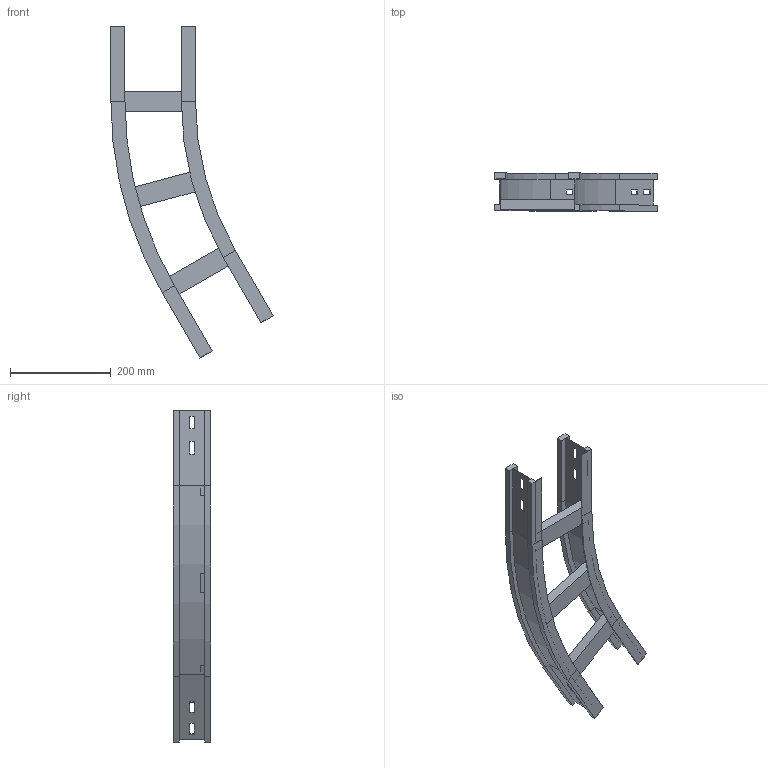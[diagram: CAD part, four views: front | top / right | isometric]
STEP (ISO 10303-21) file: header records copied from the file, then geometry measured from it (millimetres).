
FILE_DESCRIPTION (( 'STEP AP214' ), '1' );
FILE_NAME ('12S6C150.step', '2025-02-21T16:02:23', ( '' ), ( '' ), 'SwSTEP 2.0', 'SolidWorks 2023', '' );
FILE_SCHEMA (( 'AUTOMOTIVE_DESIGN' ));
Length unit declared in the file: millimetre
Products named in the file (4): TRAVERSINO_150; 12S6C150; LONGH.INTERNO 30°_H75_R600; LONGH.ESTERNO 30°_H75_R600+150
Assembly tree (5 placements, depth 2):
  12S6C150
    LONGH.INTERNO 30°_H75_R600
    LONGH.ESTERNO 30°_H75_R600+150
    TRAVERSINO_150  x3
Bounding box: 322.18 x 75 x 659.4 mm (x, y, z)
Volume: 998464.5 mm3; surface area: 380202 mm2
Topology: 5 solids, 5 shells, 126 faces, 300 edges, 184 vertices
Faces by surface type: plane 114, cylinder 12
Entity records: 3389 total; most frequent: CARTESIAN_POINT 566, ORIENTED_EDGE 552, DIRECTION 544, EDGE_CURVE 276, LINE 252, VECTOR 252, VERTEX_POINT 168, AXIS2_PLACEMENT_3D 146
